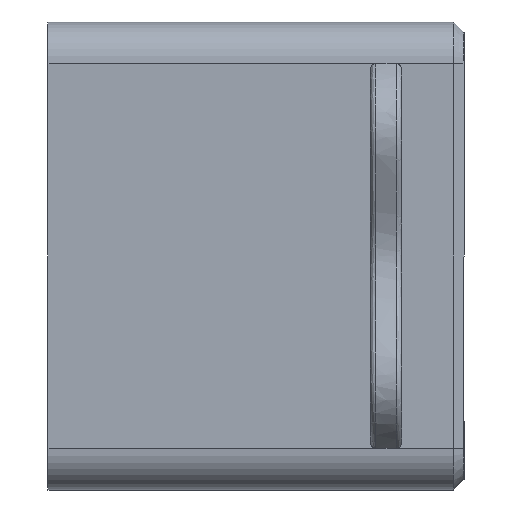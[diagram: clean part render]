
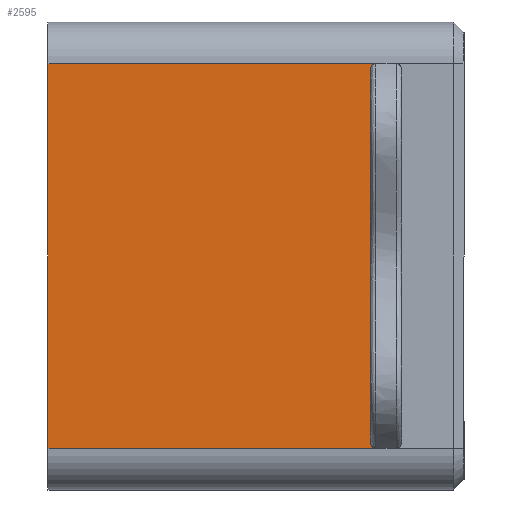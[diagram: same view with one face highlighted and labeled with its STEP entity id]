
A CAD part, left-side view. The second image highlights one B-rep face of the part: STEP entity #2595.
In plain terms, the highlighted planar face has unit normal (-1, 0, 0).
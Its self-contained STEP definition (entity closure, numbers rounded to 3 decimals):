
#17=DIRECTION('',(0.,0.,-1.));
#18=VECTOR('',#17,35.853);
#19=CARTESIAN_POINT('',(-22.5,-11.,17.926));
#20=LINE('',#19,#18);
#21=DIRECTION('',(0.,1.,0.));
#22=VECTOR('',#21,31.5);
#23=CARTESIAN_POINT('',(-22.5,-11.5,-18.5));
#24=LINE('',#23,#22);
#25=DIRECTION('',(0.,0.,1.));
#26=VECTOR('',#25,37.);
#27=CARTESIAN_POINT('',(-22.5,20.,-18.5));
#28=LINE('',#27,#26);
#29=DIRECTION('',(0.,-1.,0.));
#30=VECTOR('',#29,31.5);
#31=CARTESIAN_POINT('',(-22.5,20.,18.5));
#32=LINE('',#31,#30);
#71=CARTESIAN_POINT('',(-22.5,-11.5,-18.5));
#77=CARTESIAN_POINT('',(-22.5,-11.5,18.5));
#170=CARTESIAN_POINT('',(-22.5,-11.5,
-18.5));
#171=CARTESIAN_POINT('',(-22.5,-11.449,
-18.5));
#172=CARTESIAN_POINT('',(-22.5,-11.352,
-18.484));
#173=CARTESIAN_POINT('',(-22.5,-11.21,
-18.405));
#174=CARTESIAN_POINT('',(-22.5,-11.096,
-18.28));
#175=CARTESIAN_POINT('',(-22.5,-11.019,
-18.116));
#176=CARTESIAN_POINT('',(-22.5,-11.,-17.992));
#177=CARTESIAN_POINT('',(-22.5,-11.,-17.926));
#179=CARTESIAN_POINT('',(-22.5,-11.,17.926));
#180=CARTESIAN_POINT('',(-22.5,-11.,17.992));
#181=CARTESIAN_POINT('',(-22.5,-11.019,18.116));
#182=CARTESIAN_POINT('',(-22.5,-11.096,18.28));
#183=CARTESIAN_POINT('',(-22.5,-11.21,18.405));
#184=CARTESIAN_POINT('',(-22.5,-11.352,18.484));
#185=CARTESIAN_POINT('',(-22.5,-11.449,18.5));
#186=CARTESIAN_POINT('',(-22.5,-11.5,18.5));
#188=CARTESIAN_POINT('',(-22.5,-11.,-17.926));
#260=CARTESIAN_POINT('',(-22.5,-11.,17.926));
#2029=CARTESIAN_POINT('',(-22.5,20.,-18.5));
#2031=VERTEX_POINT('',#2029);
#2032=CARTESIAN_POINT('',(-22.5,20.,18.5));
#2034=VERTEX_POINT('',#2032);
#2538=VERTEX_POINT('',#71);
#2539=VERTEX_POINT('',#77);
#2540=VERTEX_POINT('',#188);
#2541=VERTEX_POINT('',#260);
#2576=CARTESIAN_POINT('',(-22.5,0.,0.));
#2577=DIRECTION('',(1.,0.,0.));
#2578=DIRECTION('',(0.,0.,-1.));
#2579=AXIS2_PLACEMENT_3D('',#2576,#2577,#2578);
#2580=PLANE('',#2579);
#2582=ORIENTED_EDGE('',*,*,#2581,.T.);
#2584=ORIENTED_EDGE('',*,*,#2583,.F.);
#2586=ORIENTED_EDGE('',*,*,#2585,.T.);
#2588=ORIENTED_EDGE('',*,*,#2587,.T.);
#2590=ORIENTED_EDGE('',*,*,#2589,.T.);
#2592=ORIENTED_EDGE('',*,*,#2591,.F.);
#2593=EDGE_LOOP('',(#2582,#2584,#2586,#2588,#2590,#2592));
#2594=FACE_OUTER_BOUND('',#2593,.F.);
#2595=ADVANCED_FACE('',(#2594),#2580,.F.);
#178=B_SPLINE_CURVE_WITH_KNOTS('',3,(#170,#171,#172,#173,#174,#175,#176,#177),
.UNSPECIFIED.,.F.,.F.,(4,1,1,1,1,4),(0.,0.2,0.4,0.6,0.8,1.),
.UNSPECIFIED.);
#187=B_SPLINE_CURVE_WITH_KNOTS('',3,(#179,#180,#181,#182,#183,#184,#185,#186),
.UNSPECIFIED.,.F.,.F.,(4,1,1,1,1,4),(0.,0.2,0.4,0.6,0.8,1.),
.UNSPECIFIED.);
#2581=EDGE_CURVE('',#2541,#2540,#20,.T.);
#2583=EDGE_CURVE('',#2538,#2540,#178,.T.);
#2585=EDGE_CURVE('',#2538,#2031,#24,.T.);
#2587=EDGE_CURVE('',#2031,#2034,#28,.T.);
#2589=EDGE_CURVE('',#2034,#2539,#32,.T.);
#2591=EDGE_CURVE('',#2541,#2539,#187,.T.);
